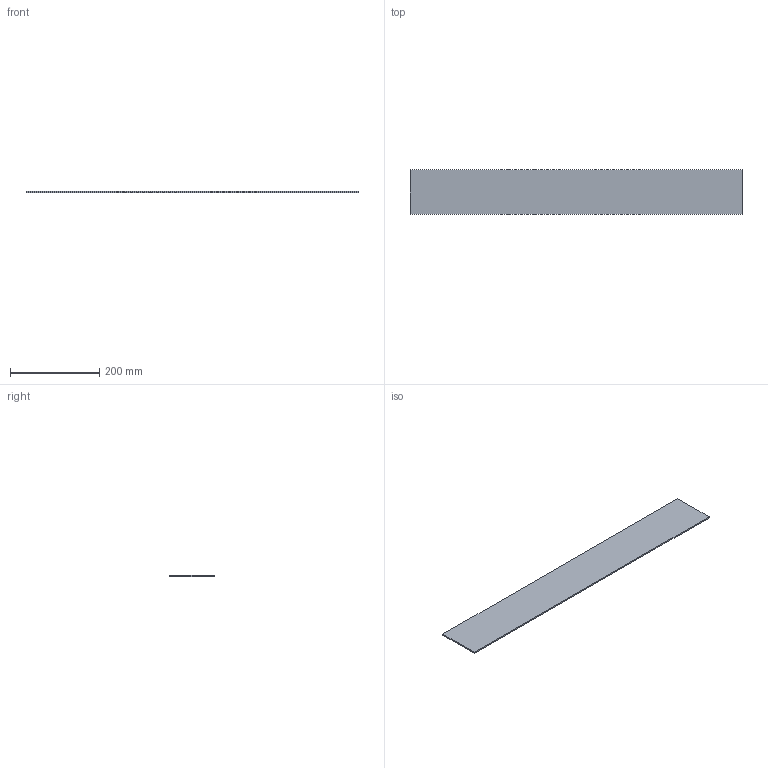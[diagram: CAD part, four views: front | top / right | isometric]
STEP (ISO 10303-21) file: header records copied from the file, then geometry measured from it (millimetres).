
FILE_DESCRIPTION(('Open CASCADE Model'),'2;1');
FILE_NAME('Open CASCADE Shape Model','2026-10-15T15:10:07',('Author'),( 'Open CASCADE'),'Open CASCADE STEP processor 8.0','Open CASCADE 8.0' ,'Unknown');
FILE_SCHEMA(('AUTOMOTIVE_DESIGN { 1 0 10303 214 1 1 1 1 }'));
Length unit declared in the file: millimetre
Products named in the file (1): RODAPIE_TESTERO_800x100x3_P05_JUNTA_18 199
Bounding box: 746 x 100 x 3 mm (x, y, z)
Volume: 223800 mm3; surface area: 154276 mm2
Topology: 1 solids, 1 shells, 6 faces, 12 edges, 8 vertices
Faces by surface type: plane 6
Entity records: 306 total; most frequent: CARTESIAN_POINT 67, DIRECTION 34, ORIENTED_EDGE 24, PCURVE 24, DEFINITIONAL_REPRESENTATION 24, LINE 20, VECTOR 20, B_SPLINE_CURVE_WITH_KNOTS 16
